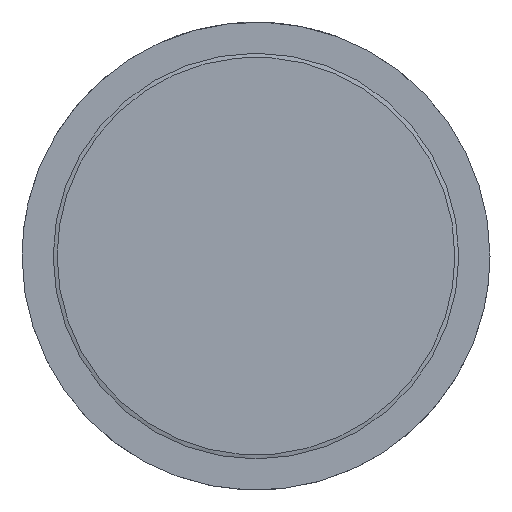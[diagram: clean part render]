
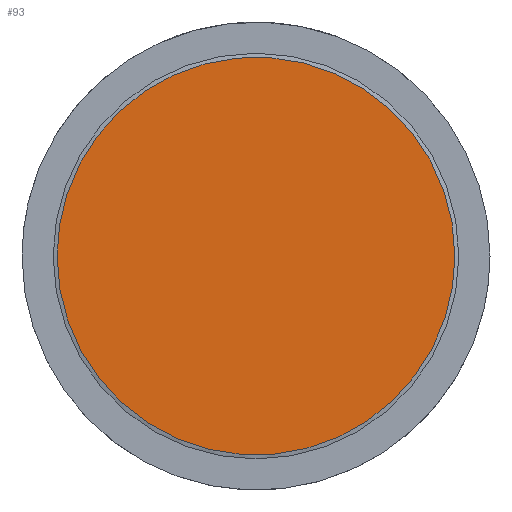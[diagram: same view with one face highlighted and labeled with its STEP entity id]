
A CAD part, front view. The second image highlights one B-rep face of the part: STEP entity #93.
In plain terms, the highlighted planar face has unit normal (0, -1, 0).
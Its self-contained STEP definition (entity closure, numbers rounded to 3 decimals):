
#63=PLANE('',#219);
#93=ADVANCED_FACE('',(#102),#63,.T.);
#102=FACE_OUTER_BOUND('',#120,.T.);
#120=EDGE_LOOP('',(#151,#152));
#151=ORIENTED_EDGE('',*,*,#190,.T.);
#152=ORIENTED_EDGE('',*,*,#191,.T.);
#173=VERTEX_POINT('',#513);
#174=VERTEX_POINT('',#514);
#190=EDGE_CURVE('',#173,#174,#203,.T.);
#191=EDGE_CURVE('',#174,#173,#204,.T.);
#203=B_SPLINE_CURVE_WITH_KNOTS('',3,(#503,#504,#505,#506,#507,#508,#509,
#510,#511,#512),.UNSPECIFIED.,.F.,.F.,(4,2,2,2,4),(0.,0.25,0.5,0.75,1.),
 .UNSPECIFIED.);
#204=B_SPLINE_CURVE_WITH_KNOTS('',3,(#515,#516,#517,#518,#519,#520,#521,
#522,#523,#524),.UNSPECIFIED.,.F.,.F.,(4,2,2,2,4),(0.,0.25,0.5,0.75,1.),
 .UNSPECIFIED.);
#219=AXIS2_PLACEMENT_3D('',#525,#247,#248);
#247=DIRECTION('',(0.,-1.,0.));
#248=DIRECTION('',(1.,0.,0.));
#503=CARTESIAN_POINT('',(1.275,-22.,0.));
#504=CARTESIAN_POINT('',(1.275,-22.,0.338));
#505=CARTESIAN_POINT('',(1.14,-22.,0.663));
#506=CARTESIAN_POINT('',(0.663,-22.,1.14));
#507=CARTESIAN_POINT('',(0.337,-22.,1.275));
#508=CARTESIAN_POINT('',(-0.337,-22.,1.275));
#509=CARTESIAN_POINT('',(-0.663,-22.,1.14));
#510=CARTESIAN_POINT('',(-1.14,-22.,0.663));
#511=CARTESIAN_POINT('',(-1.275,-22.,0.339));
#512=CARTESIAN_POINT('',(-1.275,-22.,0.));
#513=CARTESIAN_POINT('',(1.275,-22.,0.));
#514=CARTESIAN_POINT('',(-1.275,-22.,0.));
#515=CARTESIAN_POINT('',(-1.275,-22.,0.));
#516=CARTESIAN_POINT('',(-1.275,-22.,-0.338));
#517=CARTESIAN_POINT('',(-1.14,-22.,-0.663));
#518=CARTESIAN_POINT('',(-0.663,-22.,-1.14));
#519=CARTESIAN_POINT('',(-0.337,-22.,-1.275));
#520=CARTESIAN_POINT('',(0.337,-22.,-1.275));
#521=CARTESIAN_POINT('',(0.663,-22.,-1.14));
#522=CARTESIAN_POINT('',(1.14,-22.,-0.663));
#523=CARTESIAN_POINT('',(1.275,-22.,-0.339));
#524=CARTESIAN_POINT('',(1.275,-22.,0.));
#525=CARTESIAN_POINT('',(0.,-22.,0.));
